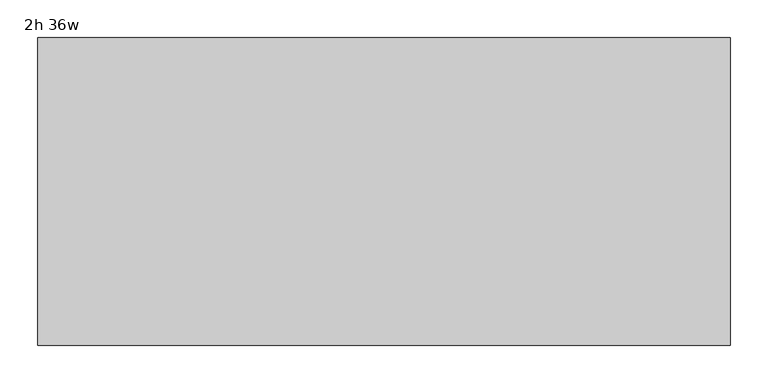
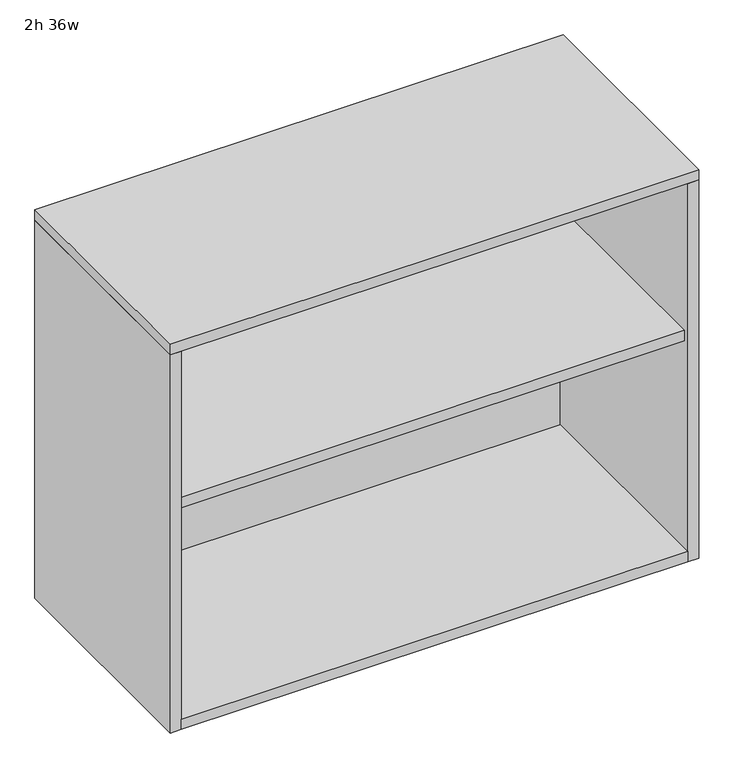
"""IFC4 building model written with IfcOpenShell, lengths in millimetres: furniture geometry, Haworth_BeHold_Bookcase1 : 2h 36w."""

from ifc_helpers import new_model, si_unit, frame, origin, origin_with_axes, place, context, project, spatial, polyline, outline, extrude, source, transform, mapped, element, save


def furniture_2h_36w_1ac3a8f6(model_context):
    return source(origin(), model_context, "Body", "SweptSolid", [
        extrude(outline(polyline([(281.2908447, -98.425), (281.2908447, -485.775), (-595.0091553, -485.775), (-595.0091553, -98.425), (281.2908447, -98.425)])), frame((0.0, 0.0, 398.526), z_axis=(0.0, 0.0, 1.0), x_axis=(1.0, 0.0, 0.0)), (0.0, 0.0, 1.0), 19.05),
        extrude(outline(polyline([(281.2908447, -93.6625), (281.2908447, -112.7125), (-595.0091553, -112.7125), (-595.0091553, -93.6625), (281.2908447, -93.6625)])), frame((0.0, 0.0, 19.05), z_axis=(0.0, 0.0, 1.0), x_axis=(1.0, 0.0, 0.0)), (0.0, 0.0, 1.0), 673.1),
        extrude(outline(polyline([(281.2908447, -88.9), (281.2908447, -495.3), (-595.0091553, -495.3), (-595.0091553, -88.9), (281.2908447, -88.9)])), origin_with_axes(), (0.0, 0.0, 1.0), 19.05),
        extrude(outline(polyline([(300.3408447, -88.9), (300.3408447, -495.3), (-614.0591553, -495.3), (-614.0591553, -88.9), (300.3408447, -88.9)])), frame((0.0, 0.0, 692.15), z_axis=(0.0, 0.0, 1.0), x_axis=(1.0, 0.0, 0.0)), (0.0, 0.0, 1.0), 19.05),
        extrude(outline(polyline([(-595.0091553, -88.9), (-595.0091553, -495.3), (-614.0591553, -495.3), (-614.0591553, -88.9), (-595.0091553, -88.9)])), origin_with_axes(), (0.0, 0.0, 1.0), 692.15),
        extrude(outline(polyline([(281.2908447, -495.3), (281.2908447, -88.9), (300.3408447, -88.9), (300.3408447, -495.3), (281.2908447, -495.3)])), origin_with_axes(), (0.0, 0.0, 1.0), 692.15),
    ])


if __name__ == "__main__":
    model = new_model("IFC4")
    model_context = context("Model", 3, world=origin())
    ifc_project = project(units=[si_unit("LENGTHUNIT", "METRE", prefix="MILLI")], contexts=[model_context])
    site = spatial("IfcSite", under=ifc_project)
    building = spatial("IfcBuilding", under=site)
    placement = place(None, origin())
    furniture_2h_36w_shape = furniture_2h_36w_1ac3a8f6(model_context)
    element("IfcFurniture", 1, ObjectType="Haworth_BeHold_Bookcase1 : 2h 36w", at=placement, inside=building, context=model_context, shape_type="MappedRepresentation", body=[
        mapped(furniture_2h_36w_shape, transform((0.0, 0.0, 0.0), x_axis=(1.0, 0.0, 0.0), y_axis=(0.0, 1.0, 0.0), z_axis=(0.0, 0.0, 1.0))),
    ])
    save(model, "model.ifc")
